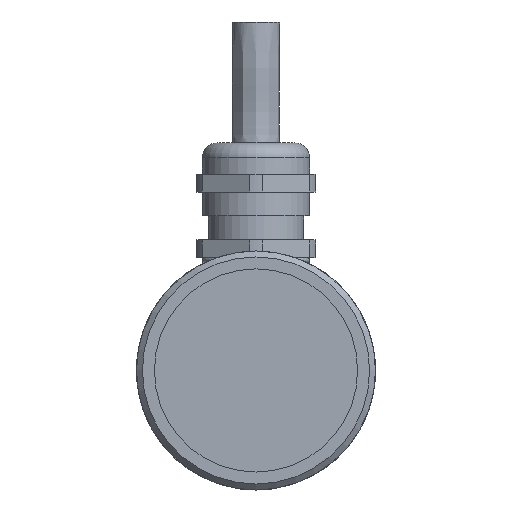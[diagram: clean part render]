
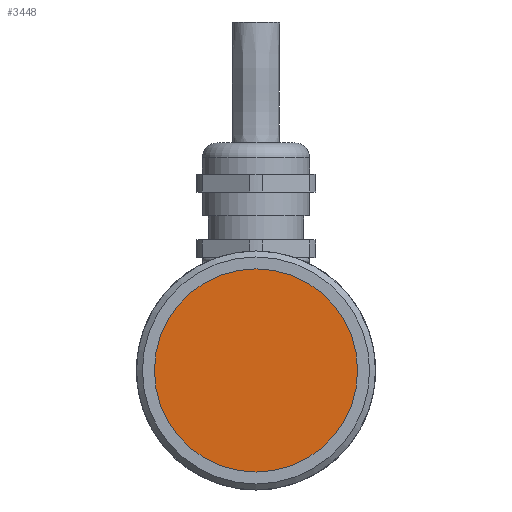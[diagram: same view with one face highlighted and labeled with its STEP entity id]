
A CAD part, left-side view. The second image highlights one B-rep face of the part: STEP entity #3448.
In plain terms, the highlighted planar face has unit normal (-1, 0, 0).
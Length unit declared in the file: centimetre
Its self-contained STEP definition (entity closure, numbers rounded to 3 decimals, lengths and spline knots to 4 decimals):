
#723=PLANE('',#3651);
#1343=CIRCLE('',#3649,1.7);
#1562=EDGE_CURVE('',#3015,#3015,#1343,.T.);
#2131=ORIENTED_EDGE('',*,*,#1562,.T.);
#2752=EDGE_LOOP('',(#2131));
#3015=VERTEX_POINT('',#4395);
#3254=FACE_BOUND('',#2752,.T.);
#3448=ADVANCED_FACE('',(#3254),#723,.T.);
#3649=AXIS2_PLACEMENT_3D('',#4394,#5858,#5859);
#3651=AXIS2_PLACEMENT_3D('',#4398,#5862,$);
#4394=CARTESIAN_POINT('',(0.1,0.,0.));
#4395=CARTESIAN_POINT('',(0.1,0.,1.7));
#4398=CARTESIAN_POINT('',(0.1,0.,0.));
#5858=DIRECTION('',(-1.,0.,0.));
#5859=DIRECTION('',(0.,0.,1.7));
#5862=DIRECTION('',(-1.,0.,0.));
